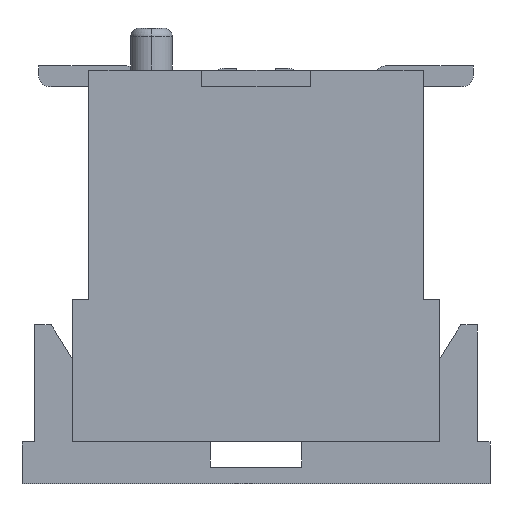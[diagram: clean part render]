
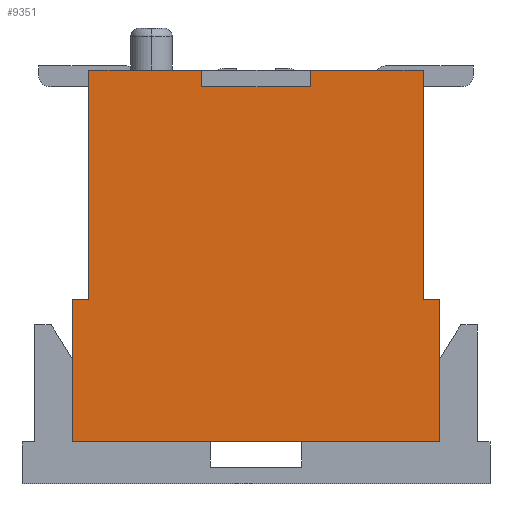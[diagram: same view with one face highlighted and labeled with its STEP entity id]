
A CAD part, left-side view. The second image highlights one B-rep face of the part: STEP entity #9351.
In plain terms, the highlighted planar face has unit normal (-1, 0, 0).
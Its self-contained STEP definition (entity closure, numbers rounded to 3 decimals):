
#146=CARTESIAN_POINT('Vertex',(-4.1,2.,4.45)) ;
#151=CARTESIAN_POINT('Line Origine',(-4.1,1.325,4.45)) ;
#155=CARTESIAN_POINT('Vertex',(-4.1,0.65,4.45)) ;
#176=CARTESIAN_POINT('Vertex',(-4.1,-0.65,4.45)) ;
#179=CARTESIAN_POINT('Line Origine',(-4.1,-1.325,4.45)) ;
#183=CARTESIAN_POINT('Vertex',(-4.1,-2.,4.45)) ;
#346=CARTESIAN_POINT('Line Origine',(-4.1,-2.,3.075)) ;
#350=CARTESIAN_POINT('Vertex',(-4.1,-2.,1.7)) ;
#2109=CARTESIAN_POINT('Vertex',(-4.1,2.,1.7)) ;
#2112=CARTESIAN_POINT('Line Origine',(-4.1,2.,3.075)) ;
#2489=CARTESIAN_POINT('Vertex',(-4.1,-2.2,0.)) ;
#2494=CARTESIAN_POINT('Line Origine',(-4.1,0.,0.)) ;
#2498=CARTESIAN_POINT('Vertex',(-4.1,2.2,0.)) ;
#9039=CARTESIAN_POINT('Line Origine',(-4.1,0.65,4.35)) ;
#9043=CARTESIAN_POINT('Vertex',(-4.1,0.65,4.25)) ;
#9087=CARTESIAN_POINT('Line Origine',(-4.1,-0.65,4.35)) ;
#9091=CARTESIAN_POINT('Vertex',(-4.1,-0.65,4.25)) ;
#9178=CARTESIAN_POINT('Vertex',(-4.1,-2.2,1.7)) ;
#9181=CARTESIAN_POINT('Line Origine',(-4.1,-2.2,0.85)) ;
#9198=CARTESIAN_POINT('Line Origine',(-4.1,2.2,0.85)) ;
#9202=CARTESIAN_POINT('Vertex',(-4.1,2.2,1.7)) ;
#9222=CARTESIAN_POINT('Line Origine',(-4.1,2.1,1.7)) ;
#9234=CARTESIAN_POINT('Line Origine',(-4.1,0.,4.25)) ;
#9320=CARTESIAN_POINT('Line Origine',(-4.1,-2.1,1.7)) ;
#9332=CARTESIAN_POINT('Axis2P3D Location',(-4.1,0.,0.)) ;
#152=DIRECTION('Vector Direction',(0.,-1.,0.)) ;
#180=DIRECTION('Vector Direction',(0.,-1.,0.)) ;
#347=DIRECTION('Vector Direction',(0.,0.,1.)) ;
#2113=DIRECTION('Vector Direction',(0.,0.,1.)) ;
#2495=DIRECTION('Vector Direction',(0.,1.,0.)) ;
#9040=DIRECTION('Vector Direction',(0.,0.,-1.)) ;
#9088=DIRECTION('Vector Direction',(0.,0.,-1.)) ;
#9182=DIRECTION('Vector Direction',(0.,0.,1.)) ;
#9199=DIRECTION('Vector Direction',(0.,0.,1.)) ;
#9223=DIRECTION('Vector Direction',(0.,-1.,0.)) ;
#9235=DIRECTION('Vector Direction',(0.,1.,0.)) ;
#9321=DIRECTION('Vector Direction',(0.,1.,0.)) ;
#9333=DIRECTION('Axis2P3D Direction',(1.,0.,0.)) ;
#9334=DIRECTION('Axis2P3D XDirection',(0.,1.,0.)) ;
#9335=AXIS2_PLACEMENT_3D('Plane Axis2P3D',#9332,#9333,#9334) ;
#9338=ORIENTED_EDGE('',*,*,#9093,.T.) ;
#9339=ORIENTED_EDGE('',*,*,#9238,.F.) ;
#9340=ORIENTED_EDGE('',*,*,#9045,.F.) ;
#9341=ORIENTED_EDGE('',*,*,#157,.F.) ;
#9342=ORIENTED_EDGE('',*,*,#2116,.F.) ;
#9343=ORIENTED_EDGE('',*,*,#9226,.F.) ;
#9344=ORIENTED_EDGE('',*,*,#9204,.F.) ;
#9345=ORIENTED_EDGE('',*,*,#2500,.F.) ;
#9346=ORIENTED_EDGE('',*,*,#9185,.F.) ;
#9347=ORIENTED_EDGE('',*,*,#9324,.F.) ;
#9348=ORIENTED_EDGE('',*,*,#352,.F.) ;
#9349=ORIENTED_EDGE('',*,*,#185,.F.) ;
#153=VECTOR('Line Direction',#152,1.) ;
#181=VECTOR('Line Direction',#180,1.) ;
#348=VECTOR('Line Direction',#347,1.) ;
#2114=VECTOR('Line Direction',#2113,1.) ;
#2496=VECTOR('Line Direction',#2495,1.) ;
#9041=VECTOR('Line Direction',#9040,1.) ;
#9089=VECTOR('Line Direction',#9088,1.) ;
#9183=VECTOR('Line Direction',#9182,1.) ;
#9200=VECTOR('Line Direction',#9199,1.) ;
#9224=VECTOR('Line Direction',#9223,1.) ;
#9236=VECTOR('Line Direction',#9235,1.) ;
#9322=VECTOR('Line Direction',#9321,1.) ;
#9351=ADVANCED_FACE('\X2\96F64EF651E04F554F53\X0\',(#9350),#9336,.F.) ;
#157=EDGE_CURVE('',#147,#156,#154,.T.) ;
#185=EDGE_CURVE('',#177,#184,#182,.T.) ;
#352=EDGE_CURVE('',#184,#351,#349,.F.) ;
#2116=EDGE_CURVE('',#2110,#147,#2115,.T.) ;
#2500=EDGE_CURVE('',#2490,#2499,#2497,.T.) ;
#9045=EDGE_CURVE('',#156,#9044,#9042,.T.) ;
#9093=EDGE_CURVE('',#177,#9092,#9090,.T.) ;
#9185=EDGE_CURVE('',#9179,#2490,#9184,.F.) ;
#9204=EDGE_CURVE('',#2499,#9203,#9201,.T.) ;
#9226=EDGE_CURVE('',#9203,#2110,#9225,.T.) ;
#9238=EDGE_CURVE('',#9044,#9092,#9237,.F.) ;
#9324=EDGE_CURVE('',#351,#9179,#9323,.F.) ;
#9337=EDGE_LOOP('',(#9338,#9339,#9340,#9341,#9342,#9343,#9344,#9345,#9346,#9347,#9348,#9349)) ;
#9350=FACE_OUTER_BOUND('',#9337,.T.) ;
#154=LINE('Line',#151,#153) ;
#182=LINE('Line',#179,#181) ;
#349=LINE('Line',#346,#348) ;
#2115=LINE('Line',#2112,#2114) ;
#2497=LINE('Line',#2494,#2496) ;
#9042=LINE('Line',#9039,#9041) ;
#9090=LINE('Line',#9087,#9089) ;
#9184=LINE('Line',#9181,#9183) ;
#9201=LINE('Line',#9198,#9200) ;
#9225=LINE('Line',#9222,#9224) ;
#9237=LINE('Line',#9234,#9236) ;
#9323=LINE('Line',#9320,#9322) ;
#9336=PLANE('Plane',#9335) ;
#147=VERTEX_POINT('',#146) ;
#156=VERTEX_POINT('',#155) ;
#177=VERTEX_POINT('',#176) ;
#184=VERTEX_POINT('',#183) ;
#351=VERTEX_POINT('',#350) ;
#2110=VERTEX_POINT('',#2109) ;
#2490=VERTEX_POINT('',#2489) ;
#2499=VERTEX_POINT('',#2498) ;
#9044=VERTEX_POINT('',#9043) ;
#9092=VERTEX_POINT('',#9091) ;
#9179=VERTEX_POINT('',#9178) ;
#9203=VERTEX_POINT('',#9202) ;
